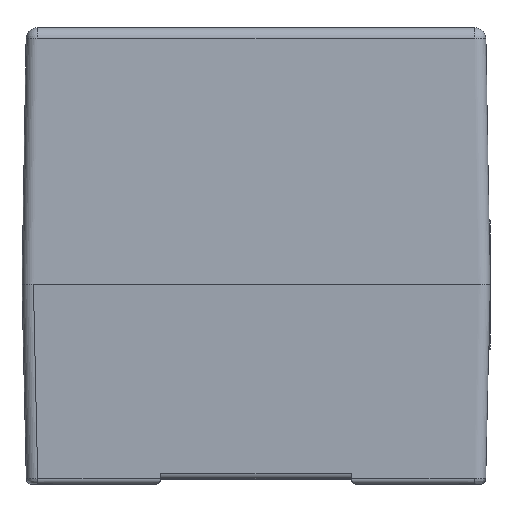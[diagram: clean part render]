
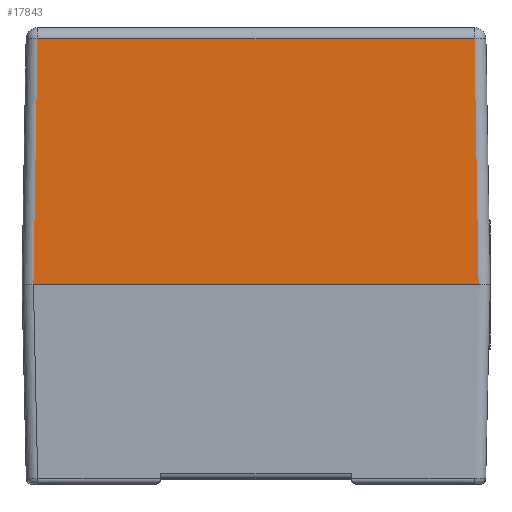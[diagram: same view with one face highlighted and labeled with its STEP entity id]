
A CAD part, front view. The second image highlights one B-rep face of the part: STEP entity #17843.
In plain terms, the highlighted planar face has unit normal (0, -1, 0.017).
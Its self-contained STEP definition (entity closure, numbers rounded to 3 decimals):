
#15566=CARTESIAN_POINT('',(-38.283,-35.283,77.033));
#15567=VERTEX_POINT('',#15566);
#15599=CARTESIAN_POINT('',(38.283,-35.283,77.033));
#15600=VERTEX_POINT('',#15599);
#15874=CARTESIAN_POINT('',(-38.283,-35.283,77.033));
#15875=DIRECTION('',(1.0,0.0,0.0));
#15876=VECTOR('',#15875,76.566);
#15877=LINE('',#15874,#15876);
#15878=EDGE_CURVE('',#15567,#15600,#15877,.T.);
#15890=CARTESIAN_POINT('',(39.,-36.,34.));
#15891=VERTEX_POINT('',#15890);
#15922=CARTESIAN_POINT('',(38.283,-35.283,77.033));
#15923=DIRECTION('',(0.017,-0.017,-1.));
#15924=VECTOR('',#15923,43.045);
#15925=LINE('',#15922,#15924);
#15926=EDGE_CURVE('',#15600,#15891,#15925,.T.);
#15955=CARTESIAN_POINT('',(-39.,-36.,34.));
#15956=VERTEX_POINT('',#15955);
#15963=CARTESIAN_POINT('',(-39.,-36.,34.));
#15964=DIRECTION('',(0.017,0.017,1.));
#15965=VECTOR('',#15964,43.045);
#15966=LINE('',#15963,#15965);
#15967=EDGE_CURVE('',#15956,#15567,#15966,.T.);
#17827=CARTESIAN_POINT('',(-40.25,-35.25,79.));
#17828=DIRECTION('',(0.,1.,-0.017));
#17829=DIRECTION('',(0.,0.017,1.));
#17830=AXIS2_PLACEMENT_3D('',#17827,#17828,#17829);
#17831=PLANE('',#17830);
#17832=ORIENTED_EDGE('',*,*,#15967,.F.);
#17833=CARTESIAN_POINT('',(39.,-36.,34.0));
#17834=DIRECTION('',(-1.0,0.0,0.0));
#17835=VECTOR('',#17834,78.001);
#17836=LINE('',#17833,#17835);
#17837=EDGE_CURVE('',#15891,#15956,#17836,.T.);
#17838=ORIENTED_EDGE('',*,*,#17837,.F.);
#17839=ORIENTED_EDGE('',*,*,#15926,.F.);
#17840=ORIENTED_EDGE('',*,*,#15878,.F.);
#17841=EDGE_LOOP('',(#17832,#17838,#17839,#17840));
#17842=FACE_OUTER_BOUND('',#17841,.T.);
#17843=ADVANCED_FACE('',(#17842),#17831,.F.);
